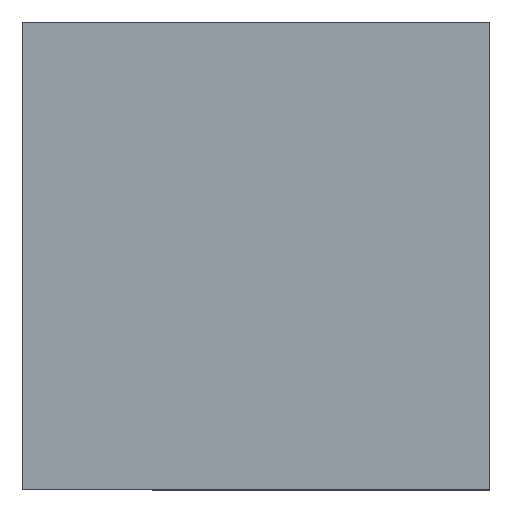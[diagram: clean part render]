
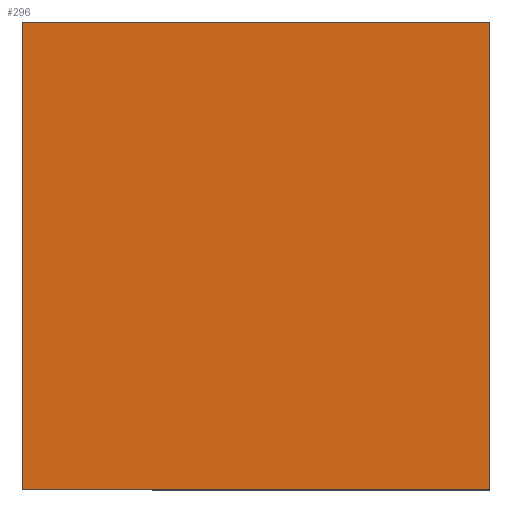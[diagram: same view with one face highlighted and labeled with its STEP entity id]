
A CAD part, top view. The second image highlights one B-rep face of the part: STEP entity #296.
In plain terms, the highlighted planar face has unit normal (0, 0, 1).
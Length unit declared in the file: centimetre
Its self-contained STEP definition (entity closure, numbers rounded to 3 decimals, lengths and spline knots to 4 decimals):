
#12 = VERTEX_POINT ( 'NONE', #1567 ) ;
#14 = CARTESIAN_POINT ( 'NONE',  ( 0., 1000., 1000. ) ) ;
#23 = CARTESIAN_POINT ( 'NONE',  ( 1000., 0., 1000. ) ) ;
#79 = CARTESIAN_POINT ( 'NONE',  ( 0., 1000., 1000. ) ) ;
#81 = VECTOR ( 'NONE', #1126, 100. ) ;
#116 = CARTESIAN_POINT ( 'NONE',  ( 1000., 1000., 1000. ) ) ;
#229 = LINE ( 'NONE', #1374, #314 ) ;
#264 = AXIS2_PLACEMENT_3D ( 'NONE', #1579, #1106, #600 ) ;
#282 = DIRECTION ( 'NONE',  ( 0., -1., 0. ) ) ;
#296 = ADVANCED_FACE ( 'NONE', ( #840 ), #1486, .T. ) ;
#314 = VECTOR ( 'NONE', #1130, 100. ) ;
#366 = EDGE_CURVE ( 'NONE', #1040, #12, #1422, .T. ) ;
#390 = VERTEX_POINT ( 'NONE', #23 ) ;
#447 = VECTOR ( 'NONE', #596, 100. ) ;
#509 = ORIENTED_EDGE ( 'NONE', *, *, #1381, .T. ) ;
#518 = VERTEX_POINT ( 'NONE', #116 ) ;
#596 = DIRECTION ( 'NONE',  ( -1., 0., 0. ) ) ;
#600 = DIRECTION ( 'NONE',  ( 1., 0., 0. ) ) ;
#639 = CARTESIAN_POINT ( 'NONE',  ( 1000., 1000., 1000. ) ) ;
#679 = LINE ( 'NONE', #79, #447 ) ;
#745 = LINE ( 'NONE', #639, #81 ) ;
#822 = VECTOR ( 'NONE', #282, 100. ) ;
#840 = FACE_OUTER_BOUND ( 'NONE', #1369, .T. ) ;
#936 = EDGE_CURVE ( 'NONE', #12, #390, #229, .T. ) ;
#1028 = ORIENTED_EDGE ( 'NONE', *, *, #366, .T. ) ;
#1033 = ORIENTED_EDGE ( 'NONE', *, *, #936, .T. ) ;
#1040 = VERTEX_POINT ( 'NONE', #1514 ) ;
#1106 = DIRECTION ( 'NONE',  ( 0., 0., 1. ) ) ;
#1126 = DIRECTION ( 'NONE',  ( 0., 1., 0. ) ) ;
#1130 = DIRECTION ( 'NONE',  ( 1., 0., 0. ) ) ;
#1238 = ORIENTED_EDGE ( 'NONE', *, *, #1455, .T. ) ;
#1369 = EDGE_LOOP ( 'NONE', ( #1028, #1033, #1238, #509 ) ) ;
#1374 = CARTESIAN_POINT ( 'NONE',  ( 0., 0., 1000. ) ) ;
#1381 = EDGE_CURVE ( 'NONE', #518, #1040, #679, .T. ) ;
#1422 = LINE ( 'NONE', #14, #822 ) ;
#1455 = EDGE_CURVE ( 'NONE', #390, #518, #745, .T. ) ;
#1486 = PLANE ( 'NONE',  #264 ) ;
#1514 = CARTESIAN_POINT ( 'NONE',  ( 0., 1000., 1000. ) ) ;
#1567 = CARTESIAN_POINT ( 'NONE',  ( 0., 0., 1000. ) ) ;
#1579 = CARTESIAN_POINT ( 'NONE',  ( 0., 0., 1000. ) ) ;
